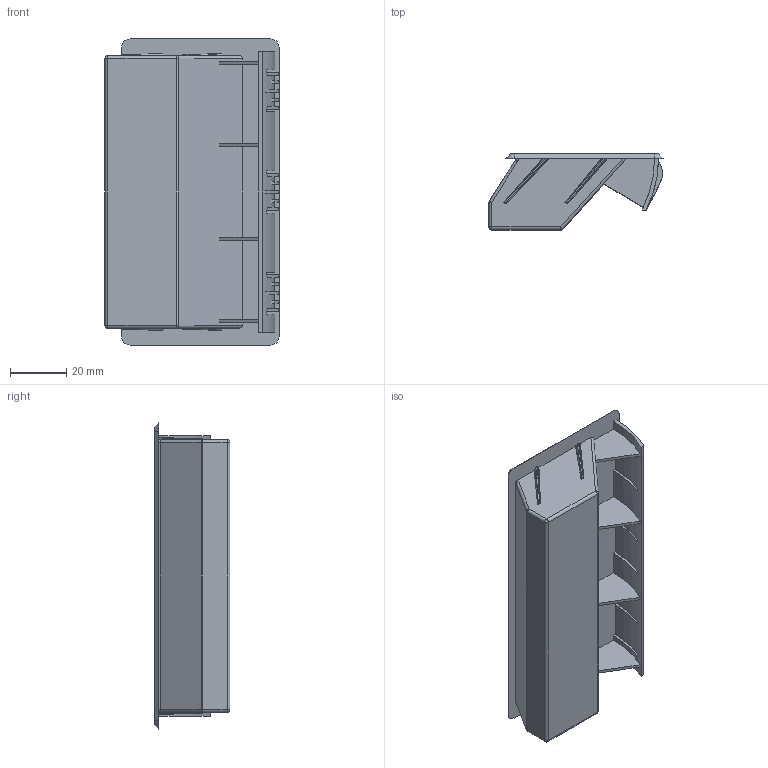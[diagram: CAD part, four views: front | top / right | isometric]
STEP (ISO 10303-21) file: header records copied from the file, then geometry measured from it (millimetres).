
FILE_DESCRIPTION (( 'STEP AP203' ), '1' );
FILE_NAME ('XG01-016-1DMK.STEP', '2025-08-02T08:27:50', ( '微软用户' ), ( '微软中国' ), 'SwSTEP 2.0', 'SolidWorks 2024', '' );
FILE_SCHEMA (( 'CONFIG_CONTROL_DESIGN' ));
Length unit declared in the file: millimetre
Products named in the file (1): XG01-016-1DMK
Bounding box: 62 x 27 x 109 mm (x, y, z)
Volume: 24302.4 mm3; surface area: 31114.2 mm2
Topology: 16 solids, 16 shells, 266 faces, 648 edges, 398 vertices
Faces by surface type: cylinder 116, plane 110, sphere 18, bspline 14, torus 4, cone 4
Entity records: 7941 total; most frequent: CARTESIAN_POINT 1693, DIRECTION 1344, ORIENTED_EDGE 1272, EDGE_CURVE 636, AXIS2_PLACEMENT_3D 505, VERTEX_POINT 398, VECTOR 334, LINE 334
